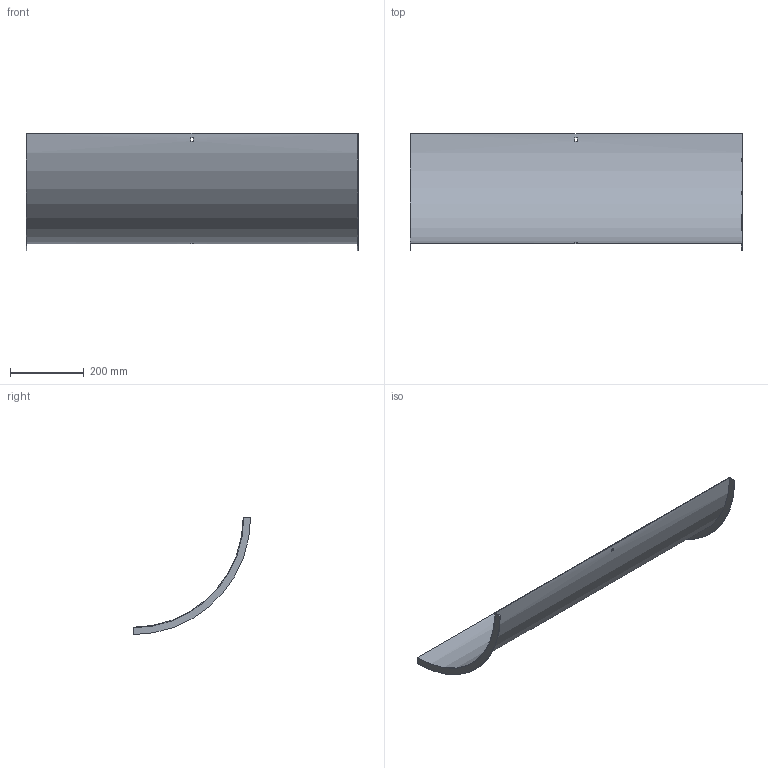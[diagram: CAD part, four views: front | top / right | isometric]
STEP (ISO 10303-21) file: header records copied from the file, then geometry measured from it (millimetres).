
FILE_DESCRIPTION (( 'STEP AP214' ), '1' );
FILE_NAME ('B2X30N3R900X.step', '2025-03-20T09:47:20', ( '' ), ( '' ), 'SwSTEP 2.0', 'SolidWorks 2023', '' );
FILE_SCHEMA (( 'AUTOMOTIVE_DESIGN' ));
Length unit declared in the file: millimetre
Products named in the file (1): B2X30N3R900X
Bounding box: 903 x 318.5 x 318.5 mm (x, y, z)
Volume: 663481.7 mm3; surface area: 889052.8 mm2
Topology: 1 solids, 1 shells, 18 faces, 48 edges, 32 vertices
Faces by surface type: plane 14, cylinder 4
Entity records: 599 total; most frequent: DIRECTION 102, CARTESIAN_POINT 99, ORIENTED_EDGE 96, EDGE_CURVE 48, AXIS2_PLACEMENT_3D 35, LINE 32, VERTEX_POINT 32, VECTOR 32
